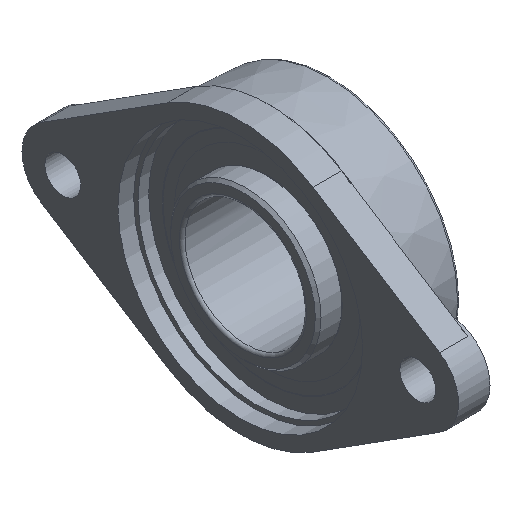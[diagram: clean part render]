
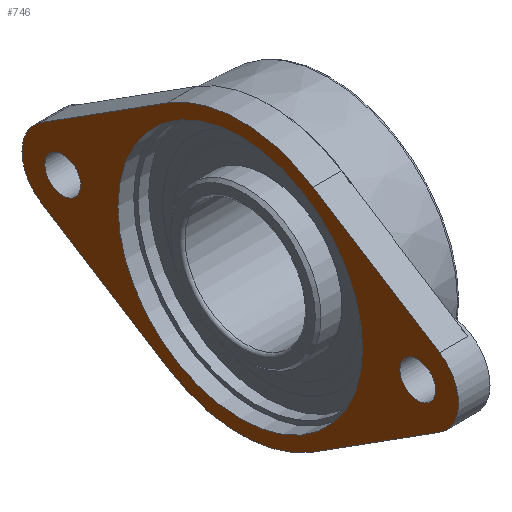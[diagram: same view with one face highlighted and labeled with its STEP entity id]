
A CAD part, isometric view. The second image highlights one B-rep face of the part: STEP entity #746.
In plain terms, the highlighted planar face has unit normal (-1, 0, 0).
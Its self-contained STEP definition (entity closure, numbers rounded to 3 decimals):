
#5 = DIRECTION ( 'NONE',  ( 0., 0., -1. ) ) ;
#27 = DIRECTION ( 'NONE',  ( 0., 0., -1. ) ) ;
#83 = LINE ( 'NONE', #2881, #2669 ) ;
#140 = EDGE_CURVE ( 'E240', #648, #655, #2154, .T. ) ;
#147 = CARTESIAN_POINT ( 'NONE',  ( -36., 124., -12.5 ) ) ;
#211 = CIRCLE ( 'NONE', #966, 28.5 ) ;
#272 = ORIENTED_EDGE ( 'NONE', *, *, #1684, .F. ) ;
#278 = VERTEX_POINT ( 'NONE', #429 ) ;
#316 = DIRECTION ( 'NONE',  ( 1., 0., 0. ) ) ;
#329 = EDGE_CURVE ( 'NONE', #1627, #1627, #1448, .T. ) ;
#358 = CARTESIAN_POINT ( 'NONE',  ( -36., 139.284, -24.055 ) ) ;
#408 = EDGE_CURVE ( 'NONE', #1596, #1596, #2812, .T. ) ;
#409 = ORIENTED_EDGE ( 'NONE', *, *, #524, .T. ) ;
#420 = CARTESIAN_POINT ( 'NONE',  ( -36., 124., 0. ) ) ;
#425 = AXIS2_PLACEMENT_3D ( 'NONE', #2286, #316, #27 ) ;
#426 = DIRECTION ( 'NONE',  ( 0., -0.844, 0.536 ) ) ;
#429 = CARTESIAN_POINT ( 'NONE',  ( -36., 139.284, 24.055 ) ) ;
#483 = PLANE ( 'NONE',  #631 ) ;
#524 = EDGE_CURVE ( 'NONE', #574, #574, #1377, .T. ) ;
#574 = VERTEX_POINT ( 'NONE', #147 ) ;
#575 = EDGE_CURVE ( 'E193', #278, #1835, #83, .T. ) ;
#607 = AXIS2_PLACEMENT_3D ( 'NONE', #420, #2237, #634 ) ;
#614 = CIRCLE ( 'NONE', #2333, 95. ) ;
#631 = AXIS2_PLACEMENT_3D ( 'NONE', #1414, #1908, #5 ) ;
#634 = DIRECTION ( 'NONE',  ( 0., 0., -1. ) ) ;
#648 = VERTEX_POINT ( 'NONE', #2069 ) ;
#655 = VERTEX_POINT ( 'NONE', #1474 ) ;
#746 = ADVANCED_FACE ( 'E454', ( #2194, #1738, #1168, #2817 ), #483, .F. ) ;
#758 = DIRECTION ( 'NONE',  ( 1., 0., 0. ) ) ;
#790 = DIRECTION ( 'NONE',  ( 0., 0.844, 0.536 ) ) ;
#881 = VERTEX_POINT ( 'NONE', #1302 ) ;
#960 = CARTESIAN_POINT ( 'NONE',  ( -36., -139.284, 24.055 ) ) ;
#966 = AXIS2_PLACEMENT_3D ( 'NONE', #2493, #1634, #1799 ) ;
#1022 = EDGE_LOOP ( 'NONE', ( #2786, #272, #1662, #1081, #1202, #2195, #2103, #1620 ) ) ;
#1070 = DIRECTION ( 'NONE',  ( 1., 0., 0. ) ) ;
#1081 = ORIENTED_EDGE ( 'NONE', *, *, #1264, .F. ) ;
#1145 = AXIS2_PLACEMENT_3D ( 'NONE', #1565, #2184, #2876 ) ;
#1156 = CARTESIAN_POINT ( 'NONE',  ( -36., -139.284, -24.055 ) ) ;
#1168 = FACE_BOUND ( 'NONE', #2438, .T. ) ;
#1198 = LINE ( 'NONE', #358, #2601 ) ;
#1202 = ORIENTED_EDGE ( 'NONE', *, *, #575, .F. ) ;
#1264 = EDGE_CURVE ( 'E214', #1835, #655, #614, .T. ) ;
#1302 = CARTESIAN_POINT ( 'NONE',  ( -36., -139.284, -24.055 ) ) ;
#1327 = CIRCLE ( 'NONE', #607, 28.5 ) ;
#1368 = EDGE_CURVE ( 'E329', #881, #1895, #1517, .T. ) ;
#1377 = CIRCLE ( 'NONE', #425, 12.5 ) ;
#1414 = CARTESIAN_POINT ( 'NONE',  ( -36., 0., 0. ) ) ;
#1448 = CIRCLE ( 'NONE', #1145, 85.5 ) ;
#1474 = CARTESIAN_POINT ( 'NONE',  ( -36., -50.948, 80.183 ) ) ;
#1513 = VECTOR ( 'NONE', #1589, 1000. ) ;
#1517 = LINE ( 'NONE', #1156, #1513 ) ;
#1565 = CARTESIAN_POINT ( 'NONE',  ( -36., 0., 0. ) ) ;
#1589 = DIRECTION ( 'NONE',  ( 0., 0.844, -0.536 ) ) ;
#1596 = VERTEX_POINT ( 'NONE', #1613 ) ;
#1613 = CARTESIAN_POINT ( 'NONE',  ( -36., -124., -12.5 ) ) ;
#1620 = ORIENTED_EDGE ( 'NONE', *, *, #2193, .F. ) ;
#1622 = CARTESIAN_POINT ( 'NONE',  ( -36., -50.948, -80.183 ) ) ;
#1627 = VERTEX_POINT ( 'NONE', #2799 ) ;
#1634 = DIRECTION ( 'NONE',  ( 1., 0., 0. ) ) ;
#1662 = ORIENTED_EDGE ( 'NONE', *, *, #140, .T. ) ;
#1684 = EDGE_CURVE ( 'E246', #648, #881, #211, .T. ) ;
#1738 = FACE_BOUND ( 'NONE', #1774, .T. ) ;
#1741 = CARTESIAN_POINT ( 'NONE',  ( -36., 0., 0. ) ) ;
#1774 = EDGE_LOOP ( 'NONE', ( #2187 ) ) ;
#1799 = DIRECTION ( 'NONE',  ( 0., 0., -1. ) ) ;
#1832 = CARTESIAN_POINT ( 'NONE',  ( -36., 50.948, 80.183 ) ) ;
#1835 = VERTEX_POINT ( 'NONE', #1832 ) ;
#1851 = DIRECTION ( 'NONE',  ( 0., 0., -1. ) ) ;
#1895 = VERTEX_POINT ( 'NONE', #1622 ) ;
#1908 = DIRECTION ( 'NONE',  ( 1., 0., 0. ) ) ;
#1999 = AXIS2_PLACEMENT_3D ( 'NONE', #2303, #2054, #1851 ) ;
#2007 = VERTEX_POINT ( 'NONE', #2832 ) ;
#2054 = DIRECTION ( 'NONE',  ( 1., 0., 0. ) ) ;
#2058 = EDGE_CURVE ( 'E382', #2007, #278, #1327, .T. ) ;
#2069 = CARTESIAN_POINT ( 'NONE',  ( -36., -139.284, 24.055 ) ) ;
#2103 = ORIENTED_EDGE ( 'NONE', *, *, #2776, .T. ) ;
#2110 = DIRECTION ( 'NONE',  ( 0., 0., -1. ) ) ;
#2115 = VERTEX_POINT ( 'NONE', #2556 ) ;
#2154 = LINE ( 'NONE', #960, #2958 ) ;
#2184 = DIRECTION ( 'NONE',  ( 1., 0., 0. ) ) ;
#2187 = ORIENTED_EDGE ( 'NONE', *, *, #408, .T. ) ;
#2193 = EDGE_CURVE ( 'E350', #1895, #2115, #2206, .T. ) ;
#2194 = FACE_BOUND ( 'NONE', #2970, .T. ) ;
#2195 = ORIENTED_EDGE ( 'NONE', *, *, #2058, .F. ) ;
#2206 = CIRCLE ( 'NONE', #2576, 95. ) ;
#2237 = DIRECTION ( 'NONE',  ( 1., 0., 0. ) ) ;
#2240 = DIRECTION ( 'NONE',  ( 0., 0., -1. ) ) ;
#2286 = CARTESIAN_POINT ( 'NONE',  ( -36., 124., 0. ) ) ;
#2291 = DIRECTION ( 'NONE',  ( 0., -0.844, -0.536 ) ) ;
#2303 = CARTESIAN_POINT ( 'NONE',  ( -36., -124., 0. ) ) ;
#2333 = AXIS2_PLACEMENT_3D ( 'NONE', #1741, #758, #2110 ) ;
#2432 = CARTESIAN_POINT ( 'NONE',  ( -36., 0., 0. ) ) ;
#2438 = EDGE_LOOP ( 'NONE', ( #409 ) ) ;
#2493 = CARTESIAN_POINT ( 'NONE',  ( -36., -124., 0. ) ) ;
#2556 = CARTESIAN_POINT ( 'NONE',  ( -36., 50.948, -80.183 ) ) ;
#2576 = AXIS2_PLACEMENT_3D ( 'NONE', #2432, #1070, #2240 ) ;
#2601 = VECTOR ( 'NONE', #2291, 1000. ) ;
#2669 = VECTOR ( 'NONE', #426, 1000. ) ;
#2776 = EDGE_CURVE ( 'E376', #2007, #2115, #1198, .T. ) ;
#2786 = ORIENTED_EDGE ( 'NONE', *, *, #1368, .F. ) ;
#2799 = CARTESIAN_POINT ( 'NONE',  ( -36., 0., -85.5 ) ) ;
#2812 = CIRCLE ( 'NONE', #1999, 12.5 ) ;
#2817 = FACE_OUTER_BOUND ( 'NONE', #1022, .T. ) ;
#2832 = CARTESIAN_POINT ( 'NONE',  ( -36., 139.284, -24.055 ) ) ;
#2876 = DIRECTION ( 'NONE',  ( 0., 0., -1. ) ) ;
#2881 = CARTESIAN_POINT ( 'NONE',  ( -36., 139.284, 24.055 ) ) ;
#2958 = VECTOR ( 'NONE', #790, 1000. ) ;
#2970 = EDGE_LOOP ( 'NONE', ( #3035 ) ) ;
#3035 = ORIENTED_EDGE ( 'NONE', *, *, #329, .T. ) ;
